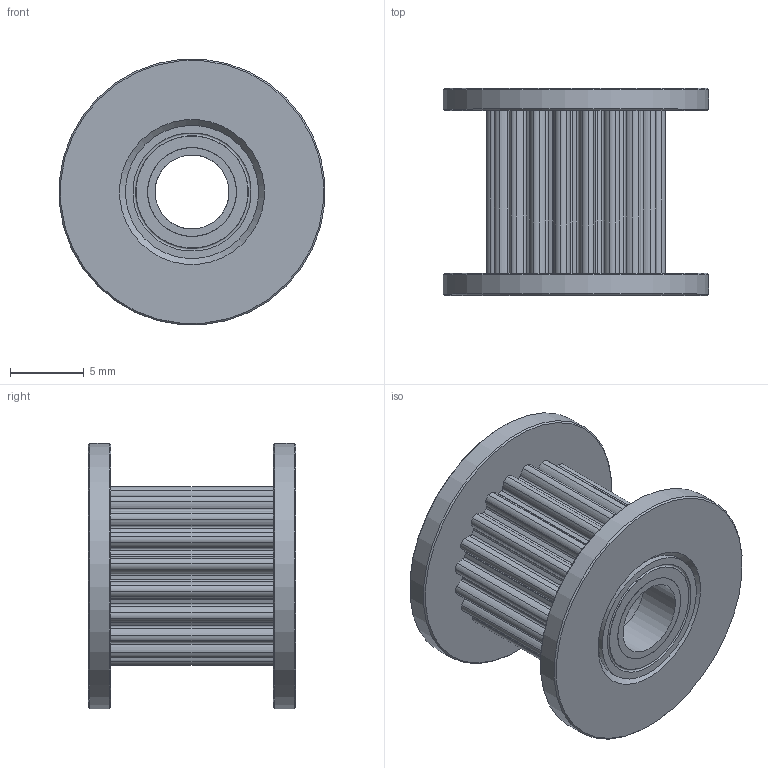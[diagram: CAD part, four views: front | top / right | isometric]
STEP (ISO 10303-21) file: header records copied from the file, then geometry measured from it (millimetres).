
FILE_DESCRIPTION(('FreeCAD Model'),'2;1');
FILE_NAME('Open CASCADE Shape Model','2021-05-05T08:47:02',('Author'),( ''),'Open CASCADE STEP processor 7.5','FreeCAD','Unknown');
FILE_SCHEMA(('AUTOMOTIVE_DESIGN { 1 0 10303 214 1 1 1 1 }'));
Length unit declared in the file: millimetre
Products named in the file (8): GT2 Timing Idler Pulley, Configurable_20T W10 B5 With T; Body, GT2 Timing Idler Pulley, Configurable_20T W10 B5 With T; Bearing Subassy, GT2 Timing Idler Pulley, Configurable_5 mm Bore; Bearing Outer Ring, GT2 Timing Idler Pulley, Configurable_5 mm Bore; Bearing Inner Ring, GT2 Timing Idler Pulley, Configurable_5 mm Bore; Bearing Seal, GT2 Timing Idler Pulley, Configurable_5 mm Bore; Bearing Ball, GT2 Timing Idler Pulley, Configurable_1.4 mm; Bearing Subassy, GT2 Timing Idler Pulley, Configurable_5 mm Bore001
Assembly tree (35 placements, depth 3):
  GT2 Timing Idler Pulley, Configurable_20T W10 B5 With T
    Body, GT2 Timing Idler Pulley, Configurable_20T W10 B5 With T
    Bearing Subassy, GT2 Timing Idler Pulley, Configurable_5 mm Bore
      Bearing Outer Ring, GT2 Timing Idler Pulley, Configurable_5 mm Bore
      Bearing Inner Ring, GT2 Timing Idler Pulley, Configurable_5 mm Bore
      Bearing Seal, GT2 Timing Idler Pulley, Configurable_5 mm Bore  x2
      Bearing Ball, GT2 Timing Idler Pulley, Configurable_1.4 mm  x12
    Bearing Subassy, GT2 Timing Idler Pulley, Configurable_5 mm Bore001
      Bearing Outer Ring, GT2 Timing Idler Pulley, Configurable_5 mm Bore
      Bearing Inner Ring, GT2 Timing Idler Pulley, Configurable_5 mm Bore
      Bearing Seal, GT2 Timing Idler Pulley, Configurable_5 mm Bore  x2
      Bearing Ball, GT2 Timing Idler Pulley, Configurable_1.4 mm  x12
Bounding box: 17.93 x 14 x 17.93 mm (x, y, z)
Volume: 1312.9 mm3; surface area: 2842.3 mm2
Topology: 33 solids, 33 shells, 229 faces, 610 edges, 403 vertices
Faces by surface type: cylinder 165, sphere 24, plane 22, torus 12, cone 6
Full cylindrical faces by diameter (mm): 5 x2, 6 x8, 8 x9, 9 x4, 18 x2
Entity records: 13250 total; most frequent: CARTESIAN_POINT 2905, DIRECTION 2028, ORIENTED_EDGE 968, PCURVE 968, DEFINITIONAL_REPRESENTATION 968, LINE 804, VECTOR 804, AXIS2_PLACEMENT_3D 533
